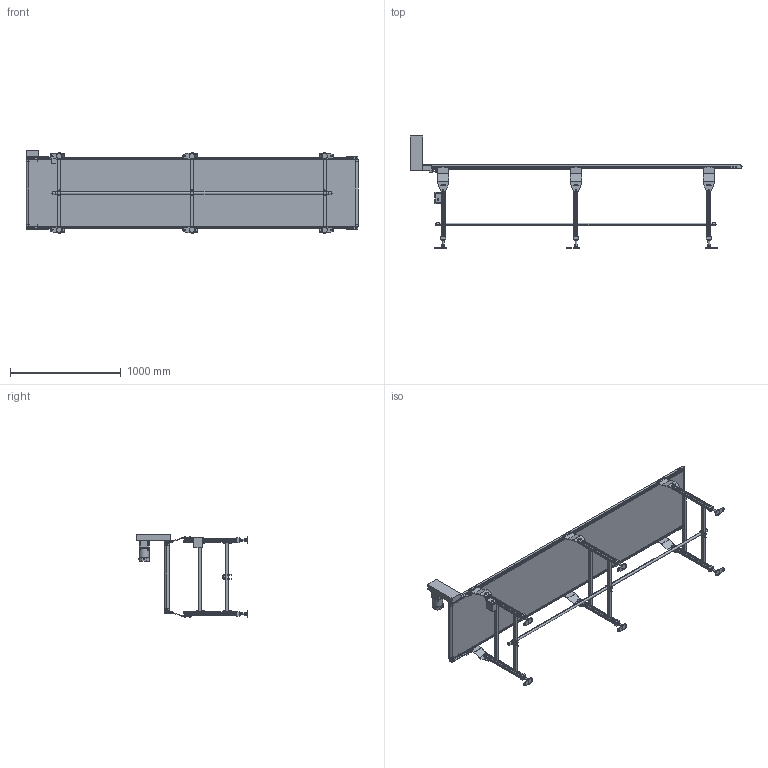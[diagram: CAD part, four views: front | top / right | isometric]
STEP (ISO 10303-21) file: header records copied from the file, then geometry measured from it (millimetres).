
FILE_DESCRIPTION( (''), '2;1');
FILE_NAME ('MB20-OD-306-600-300-L-K-100-O.stp','2025-01-29T15:42:27',(''),(''),'spGate 20.6.2 (****-****-****-****)','','');
FILE_SCHEMA (('AUTOMOTIVE_DESIGN'));
Length unit declared in the file: millimetre
Products named in the file (53): NewModel; TEMP_X_T-prt0; TEMP_X_T-prt1; TEMP_X_T-prt2; TEMP_X_T-prt3; TEMP_X_T-prt4; TEMP_X_T-prt5; TEMP_X_T-prt6; TEMP_X_T-prt7; TEMP_X_T-prt8; TEMP_X_T-prt9; TEMP_X_T-prt10; TEMP_X_T-prt11; TEMP_X_T-prt12; TEMP_X_T-prt13; TEMP_X_T-prt14; TEMP_X_T-prt15; TEMP_X_T-prt16; TEMP_X_T-prt17; TEMP_X_T-prt18; TEMP_X_T-prt19; TEMP_X_T-prt20; TEMP_X_T-prt21; TEMP_X_T-prt22; TEMP_X_T-prt23; TEMP_X_T-prt24; TEMP_X_T-prt25; TEMP_X_T-prt26; TEMP_X_T-prt27; TEMP_X_T-prt28; TEMP_X_T-prt29; TEMP_X_T-prt30; TEMP_X_T-prt31; TEMP_X_T-prt32; TEMP_X_T-prt33; TEMP_X_T-prt34; TEMP_X_T-prt35; TEMP_X_T-prt36; TEMP_X_T-prt37; TEMP_X_T-prt38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
Assembly tree (52 placements, depth 2):
  NewModel
    TEMP_X_T-prt0
    TEMP_X_T-prt1
    TEMP_X_T-prt2
    TEMP_X_T-prt3
    TEMP_X_T-prt4
    TEMP_X_T-prt5
    TEMP_X_T-prt6
    TEMP_X_T-prt7
    TEMP_X_T-prt8
    TEMP_X_T-prt9
    TEMP_X_T-prt10
    TEMP_X_T-prt11
    TEMP_X_T-prt12
    TEMP_X_T-prt13
    TEMP_X_T-prt14
    TEMP_X_T-prt15
    TEMP_X_T-prt16
    TEMP_X_T-prt17
    TEMP_X_T-prt18
    TEMP_X_T-prt19
    TEMP_X_T-prt20
    TEMP_X_T-prt21
    TEMP_X_T-prt22
    TEMP_X_T-prt23
    TEMP_X_T-prt24
    TEMP_X_T-prt25
    TEMP_X_T-prt26
    TEMP_X_T-prt27
    TEMP_X_T-prt28
    TEMP_X_T-prt29
    TEMP_X_T-prt30
    TEMP_X_T-prt31
    TEMP_X_T-prt32
    TEMP_X_T-prt33
    TEMP_X_T-prt34
    TEMP_X_T-prt35
    TEMP_X_T-prt36
    TEMP_X_T-prt37
    TEMP_X_T-prt38
    TEMP_X_T-prt39
    TEMP_X_T-prt40
    TEMP_X_T-prt41
    TEMP_X_T-prt42
    TEMP_X_T-prt43
    TEMP_X_T-prt44
    TEMP_X_T-prt45
    TEMP_X_T-prt46
    TEMP_X_T-prt47
    TEMP_X_T-prt48
    TEMP_X_T-prt49
    TEMP_X_T-prt50
    TEMP_X_T-prt51
Bounding box: 3001.9 x 1011.5 x 745.5 mm (x, y, z)
Volume: 21617246.4 mm3; surface area: 14049623 mm2
Topology: 52 solids, 52 shells, 2476 faces, 6189 edges, 3996 vertices
Faces by surface type: plane 1854, cylinder 529, bspline 93
Entity records: 125672 total; most frequent: CARTESIAN_POINT 14836, ORIENTED_EDGE 12370, DIRECTION 11954, COLOUR_RGB 8713, PRESENTATION_STYLE_ASSIGNMENT 8713, STYLED_ITEM 8713, EDGE_CURVE 6185, DRAUGHTING_PRE_DEFINED_CURVE_FONT 6185
